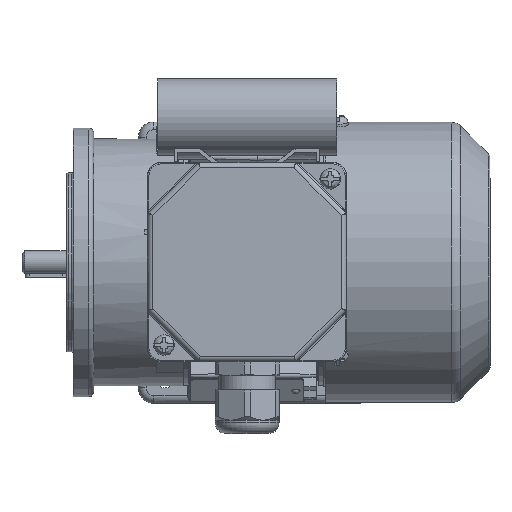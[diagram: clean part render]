
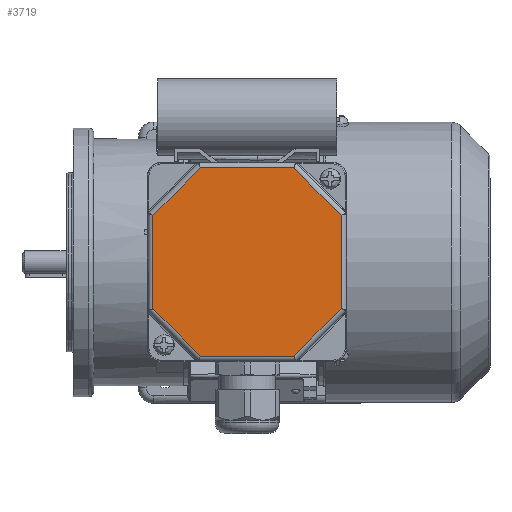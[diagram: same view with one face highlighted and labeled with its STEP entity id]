
A CAD part, top view. The second image highlights one B-rep face of the part: STEP entity #3719.
In plain terms, the highlighted planar face has unit normal (0, 0, 1).
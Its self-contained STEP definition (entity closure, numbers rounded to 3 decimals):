
#3719 = ADVANCED_FACE( '', ( #8076 ), #8077, .T. );
#8076 = FACE_OUTER_BOUND( '', #16437, .T. );
#8077 = PLANE( '', #16438 );
#16437 = EDGE_LOOP( '', ( #29864, #29865, #29866, #29867, #29868, #29869, #29870, #29871 ) );
#16438 = AXIS2_PLACEMENT_3D( '', #29872, #29873, #29874 );
#29864 = ORIENTED_EDGE( '', *, *, #40361, .T. );
#29865 = ORIENTED_EDGE( '', *, *, #42718, .T. );
#29866 = ORIENTED_EDGE( '', *, *, #42719, .T. );
#29867 = ORIENTED_EDGE( '', *, *, #42720, .T. );
#29868 = ORIENTED_EDGE( '', *, *, #41540, .T. );
#29869 = ORIENTED_EDGE( '', *, *, #42721, .T. );
#29870 = ORIENTED_EDGE( '', *, *, #40843, .T. );
#29871 = ORIENTED_EDGE( '', *, *, #42722, .T. );
#29872 = CARTESIAN_POINT( '', ( -39., 39., 12. ) );
#29873 = DIRECTION( '', ( 0., 0., 1. ) );
#29874 = DIRECTION( '', ( 1., 0., 0. ) );
#40361 = EDGE_CURVE( '', #47808, #47806, #47809, .F. );
#40843 = EDGE_CURVE( '', #48633, #48634, #48635, .F. );
#41540 = EDGE_CURVE( '', #49782, #49742, #49783, .F. );
#42718 = EDGE_CURVE( '', #47806, #46831, #51612, .T. );
#42719 = EDGE_CURVE( '', #46831, #51613, #51614, .F. );
#42720 = EDGE_CURVE( '', #51613, #49782, #51615, .T. );
#42721 = EDGE_CURVE( '', #49742, #48633, #51616, .T. );
#42722 = EDGE_CURVE( '', #48634, #47808, #51617, .T. );
#46831 = VERTEX_POINT( '', #56343 );
#47806 = VERTEX_POINT( '', #58429 );
#47808 = VERTEX_POINT( '', #58431 );
#47809 = LINE( '', #58432, #58433 );
#48633 = VERTEX_POINT( '', #60594 );
#48634 = VERTEX_POINT( '', #60595 );
#48635 = LINE( '', #60596, #60597 );
#49742 = VERTEX_POINT( '', #62645 );
#49782 = VERTEX_POINT( '', #62712 );
#49783 = LINE( '', #62713, #62714 );
#51612 = LINE( '', #66137, #66138 );
#51613 = VERTEX_POINT( '', #66139 );
#51614 = LINE( '', #66140, #66141 );
#51615 = LINE( '', #66142, #66143 );
#51616 = LINE( '', #66144, #66145 );
#51617 = LINE( '', #66146, #66147 );
#56343 = CARTESIAN_POINT( '', ( 18.255, 36.825, 12. ) );
#58429 = CARTESIAN_POINT( '', ( 36.825, 18.255, 12. ) );
#58431 = CARTESIAN_POINT( '', ( 36.825, -18.255, 12. ) );
#58432 = CARTESIAN_POINT( '', ( 36.825, 19.069, 12. ) );
#58433 = VECTOR( '', #74563, 1000. );
#60594 = CARTESIAN_POINT( '', ( -18.255, -36.825, 12. ) );
#60595 = CARTESIAN_POINT( '', ( 18.255, -36.825, 12. ) );
#60596 = CARTESIAN_POINT( '', ( 19.069, -36.825, 12. ) );
#60597 = VECTOR( '', #75071, 1000. );
#62645 = CARTESIAN_POINT( '', ( -36.825, -18.255, 12. ) );
#62712 = CARTESIAN_POINT( '', ( -36.825, 18.255, 12. ) );
#62713 = CARTESIAN_POINT( '', ( -36.825, -19.069, 12. ) );
#62714 = VECTOR( '', #76001, 1000. );
#66137 = CARTESIAN_POINT( '', ( 17.679, 37.401, 12. ) );
#66138 = VECTOR( '', #77495, 1000. );
#66139 = CARTESIAN_POINT( '', ( -18.255, 36.825, 12. ) );
#66140 = CARTESIAN_POINT( '', ( -19.069, 36.825, 12. ) );
#66141 = VECTOR( '', #77496, 1000. );
#66142 = CARTESIAN_POINT( '', ( -37.401, 17.679, 12. ) );
#66143 = VECTOR( '', #77497, 1000. );
#66144 = CARTESIAN_POINT( '', ( -17.679, -37.401, 12. ) );
#66145 = VECTOR( '', #77498, 1000. );
#66146 = CARTESIAN_POINT( '', ( 37.401, -17.679, 12. ) );
#66147 = VECTOR( '', #77499, 1000. );
#74563 = DIRECTION( '', ( 0., -1., 0. ) );
#75071 = DIRECTION( '', ( -1., 0., 0. ) );
#76001 = DIRECTION( '', ( 0., 1., 0. ) );
#77495 = DIRECTION( '', ( -0.707, 0.707, 0. ) );
#77496 = DIRECTION( '', ( 1., 0., 0. ) );
#77497 = DIRECTION( '', ( -0.707, -0.707, 0. ) );
#77498 = DIRECTION( '', ( 0.707, -0.707, 0. ) );
#77499 = DIRECTION( '', ( 0.707, 0.707, 0. ) );
